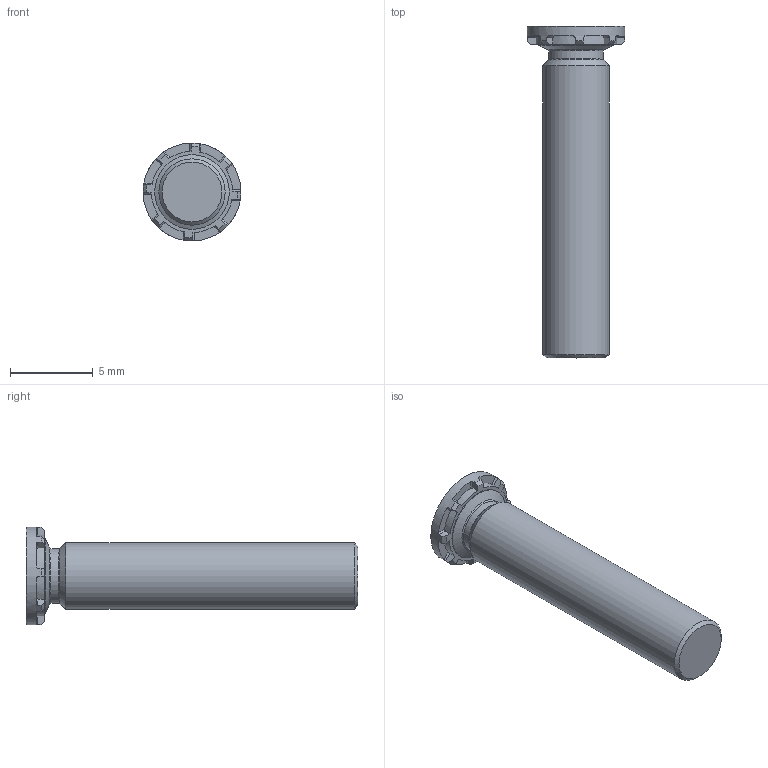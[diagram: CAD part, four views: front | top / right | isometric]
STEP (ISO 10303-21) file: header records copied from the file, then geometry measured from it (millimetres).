
FILE_DESCRIPTION(/* description */ (''),/* implementation_level */ '2;1');
FILE_NAME(/* name */ 'C:\Users\keval.kumar\Desktop\Fastit\Clinch Screw- FH Range\M4\Clinch Screw-FH Range_M4x20.stp',/* time_stamp */ '2024-03-12T11:58:00+05:00',/* author */ ('keval.kumar'),/* organization */ (''),/* preprocessor_version */ 'ST-DEVELOPER v18.1',/* originating_system */ 'Autodesk Inventor 2022',/* authorisation */ '');
FILE_SCHEMA (('AUTOMOTIVE_DESIGN { 1 0 10303 214 3 1 1 }'));
Length unit declared in the file: millimetre
Products named in the file (1): Clinch Screw-FH Range_M4x20
Bounding box: 5.9 x 20 x 5.9 mm (x, y, z)
Volume: 261 mm3; surface area: 313.2 mm2
Topology: 1 solids, 1 shells, 68 faces, 193 edges, 128 vertices
Faces by surface type: plane 43, cylinder 12, cone 11, torus 2
Full cylindrical faces by diameter (mm): 3.3 x1, 4 x1, 4.5 x1, 5.9 x1
Entity records: 2286 total; most frequent: DIRECTION 413, CARTESIAN_POINT 406, ORIENTED_EDGE 386, EDGE_CURVE 193, AXIS2_PLACEMENT_3D 159, VERTEX_POINT 128, LINE 95, VECTOR 95
